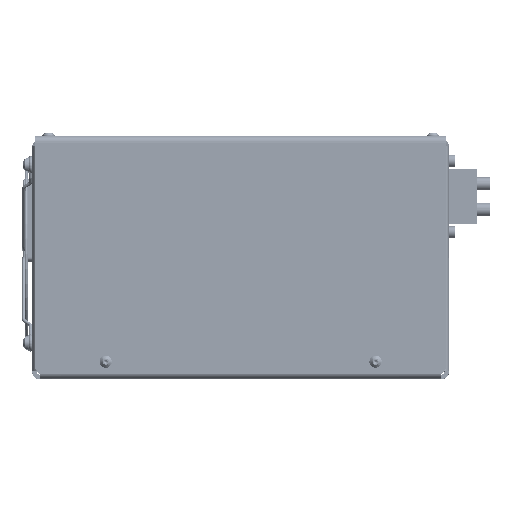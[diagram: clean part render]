
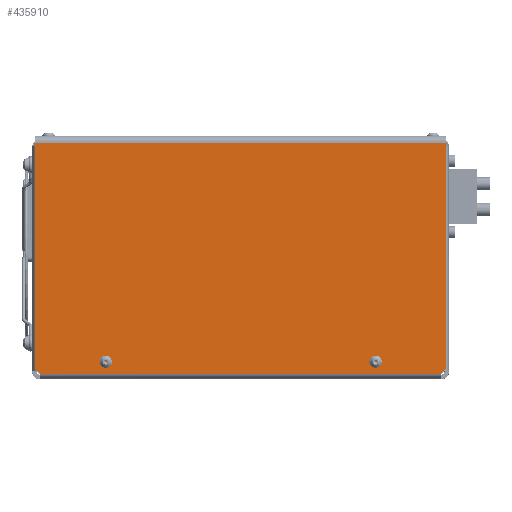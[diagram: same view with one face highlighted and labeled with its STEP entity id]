
A CAD part, top view. The second image highlights one B-rep face of the part: STEP entity #435910.
In plain terms, the highlighted planar face has unit normal (0, 0, 1) as drawn and (-1, 0, 0) by its records, which use the part's own axes.
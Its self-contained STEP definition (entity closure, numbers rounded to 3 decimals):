
#608 = ORIENTED_EDGE ( 'NONE', *, *, #650373, .T. ) ;
#2377 = VERTEX_POINT ( 'NONE', #428630 ) ;
#2914 = CARTESIAN_POINT ( 'NONE',  ( -71.75, -110., 93. ) ) ;
#14431 = DIRECTION ( 'NONE',  ( 0., -1., 0. ) ) ;
#17409 = VERTEX_POINT ( 'NONE', #585915 ) ;
#19633 = CARTESIAN_POINT ( 'NONE',  ( -71.75, -105., -64.25 ) ) ;
#22877 = AXIS2_PLACEMENT_3D ( 'NONE', #557855, #306336, #49163 ) ;
#22988 = LINE ( 'NONE', #627280, #62690 ) ;
#31115 = CARTESIAN_POINT ( 'NONE',  ( -71.75, -105., 60.75 ) ) ;
#32656 = VERTEX_POINT ( 'NONE', #402015 ) ;
#49163 = DIRECTION ( 'NONE',  ( 0., -1., 0. ) ) ;
#54930 = DIRECTION ( 'NONE',  ( 0., 1., 0. ) ) ;
#59511 = FACE_OUTER_BOUND ( 'NONE', #770082, .T. ) ;
#62690 = VECTOR ( 'NONE', #434098, 1000. ) ;
#64723 = CIRCLE ( 'NONE', #350461, 1.75 ) ;
#66536 = VERTEX_POINT ( 'NONE', #466924 ) ;
#97566 = ORIENTED_EDGE ( 'NONE', *, *, #647116, .F. ) ;
#106616 = CARTESIAN_POINT ( 'NONE',  ( -71.75, 0., -95. ) ) ;
#119086 = FACE_BOUND ( 'NONE', #544349, .T. ) ;
#127453 = DIRECTION ( 'NONE',  ( 0., 1., 0. ) ) ;
#131529 = CARTESIAN_POINT ( 'NONE',  ( -71.75, -110., 95. ) ) ;
#132091 = CIRCLE ( 'NONE', #175037, 1.75 ) ;
#138116 = CIRCLE ( 'NONE', #709453, 1.75 ) ;
#141900 = VECTOR ( 'NONE', #469283, 1000. ) ;
#149869 = DIRECTION ( 'NONE',  ( -1., 0., 0. ) ) ;
#157169 = VECTOR ( 'NONE', #461708, 1000. ) ;
#175037 = AXIS2_PLACEMENT_3D ( 'NONE', #770009, #200705, #507759 ) ;
#175112 = VERTEX_POINT ( 'NONE', #31115 ) ;
#191557 = EDGE_CURVE ( 'NONE', #767655, #17409, #132091, .T. ) ;
#192154 = LINE ( 'NONE', #2914, #477164 ) ;
#192178 = ORIENTED_EDGE ( 'NONE', *, *, #732723, .F. ) ;
#192336 = ORIENTED_EDGE ( 'NONE', *, *, #451730, .F. ) ;
#193055 = VERTEX_POINT ( 'NONE', #745208 ) ;
#195674 = DIRECTION ( 'NONE',  ( -1., 0., 0. ) ) ;
#199837 = AXIS2_PLACEMENT_3D ( 'NONE', #564227, #691277, #259903 ) ;
#200705 = DIRECTION ( 'NONE',  ( -1., 0., 0. ) ) ;
#215345 = CARTESIAN_POINT ( 'NONE',  ( -71.75, -3., 95. ) ) ;
#239283 = VECTOR ( 'NONE', #504761, 1000. ) ;
#253848 = CARTESIAN_POINT ( 'NONE',  ( -71.75, -104., -62.5 ) ) ;
#256331 = ORIENTED_EDGE ( 'NONE', *, *, #777108, .F. ) ;
#259903 = DIRECTION ( 'NONE',  ( 0., -1., 0. ) ) ;
#274969 = EDGE_CURVE ( 'NONE', #17409, #175112, #290182, .T. ) ;
#288403 = LINE ( 'NONE', #568380, #239283 ) ;
#290182 = LINE ( 'NONE', #783987, #141900 ) ;
#290435 = CIRCLE ( 'NONE', #199837, 1.75 ) ;
#292742 = DIRECTION ( 'NONE',  ( 0., 1., 0. ) ) ;
#293037 = CARTESIAN_POINT ( 'NONE',  ( -71.75, -104., -64.25 ) ) ;
#295862 = EDGE_CURVE ( 'NONE', #447245, #66536, #192154, .T. ) ;
#301792 = LINE ( 'NONE', #106616, #489925 ) ;
#306336 = DIRECTION ( 'NONE',  ( -1., 0., 0. ) ) ;
#311010 = EDGE_LOOP ( 'NONE', ( #720721, #487598, #192178, #678779, #799337 ) ) ;
#313156 = VERTEX_POINT ( 'NONE', #564706 ) ;
#317411 = DIRECTION ( 'NONE',  ( 0., -1., 0. ) ) ;
#325338 = LINE ( 'NONE', #779089, #157169 ) ;
#329525 = VERTEX_POINT ( 'NONE', #715370 ) ;
#337907 = CARTESIAN_POINT ( 'NONE',  ( -71.75, -105., 62.5 ) ) ;
#343460 = CARTESIAN_POINT ( 'NONE',  ( -71.75, -105., 62.5 ) ) ;
#350461 = AXIS2_PLACEMENT_3D ( 'NONE', #337907, #149869, #779954 ) ;
#357307 = EDGE_CURVE ( 'NONE', #32656, #767655, #631475, .T. ) ;
#381322 = EDGE_CURVE ( 'NONE', #2377, #329525, #708820, .T. ) ;
#385411 = CARTESIAN_POINT ( 'NONE',  ( -71.75, -110., -93. ) ) ;
#385700 = VERTEX_POINT ( 'NONE', #671871 ) ;
#388676 = VECTOR ( 'NONE', #504863, 1000. ) ;
#393589 = DIRECTION ( 'NONE',  ( -1., 0., 0. ) ) ;
#402015 = CARTESIAN_POINT ( 'NONE',  ( -71.75, -105., 64.25 ) ) ;
#428630 = CARTESIAN_POINT ( 'NONE',  ( -71.75, -105., -60.75 ) ) ;
#434098 = DIRECTION ( 'NONE',  ( 0., -0.707, 0.707 ) ) ;
#435910 = ADVANCED_FACE ( 'NONE', ( #712487, #119086, #59511 ), #544308, .F. ) ;
#437213 = EDGE_CURVE ( 'NONE', #738215, #313156, #290435, .T. ) ;
#442968 = DIRECTION ( 'NONE',  ( 0., 0.707, 0.707 ) ) ;
#444711 = VERTEX_POINT ( 'NONE', #385411 ) ;
#445868 = ORIENTED_EDGE ( 'NONE', *, *, #554514, .T. ) ;
#447245 = VERTEX_POINT ( 'NONE', #660089 ) ;
#451337 = VECTOR ( 'NONE', #54930, 1000. ) ;
#451730 = EDGE_CURVE ( 'NONE', #313156, #2377, #631002, .T. ) ;
#461708 = DIRECTION ( 'NONE',  ( 0., 0., -1. ) ) ;
#466924 = CARTESIAN_POINT ( 'NONE',  ( -71.75, -108., 95. ) ) ;
#469283 = DIRECTION ( 'NONE',  ( 0., -1., 0. ) ) ;
#475367 = ORIENTED_EDGE ( 'NONE', *, *, #733740, .F. ) ;
#477164 = VECTOR ( 'NONE', #442968, 1000. ) ;
#483026 = EDGE_CURVE ( 'NONE', #584300, #32656, #138116, .T. ) ;
#485605 = DIRECTION ( 'NONE',  ( 0., -1., 0. ) ) ;
#487598 = ORIENTED_EDGE ( 'NONE', *, *, #483026, .F. ) ;
#489925 = VECTOR ( 'NONE', #485605, 1000. ) ;
#504761 = DIRECTION ( 'NONE',  ( 0., -1., 0. ) ) ;
#504863 = DIRECTION ( 'NONE',  ( 0., 0., -1. ) ) ;
#507759 = DIRECTION ( 'NONE',  ( 0., -1., 0. ) ) ;
#544308 = PLANE ( 'NONE',  #791850 ) ;
#544349 = EDGE_LOOP ( 'NONE', ( #558271, #192336, #800634, #97566, #776814 ) ) ;
#554514 = EDGE_CURVE ( 'NONE', #385700, #193055, #301792, .T. ) ;
#557855 = CARTESIAN_POINT ( 'NONE',  ( -71.75, -105., -62.5 ) ) ;
#558271 = ORIENTED_EDGE ( 'NONE', *, *, #381322, .F. ) ;
#564227 = CARTESIAN_POINT ( 'NONE',  ( -71.75, -105., -62.5 ) ) ;
#564706 = CARTESIAN_POINT ( 'NONE',  ( -71.75, -106.75, -62.5 ) ) ;
#568380 = CARTESIAN_POINT ( 'NONE',  ( -71.75, -105., -64.25 ) ) ;
#584300 = VERTEX_POINT ( 'NONE', #792329 ) ;
#585915 = CARTESIAN_POINT ( 'NONE',  ( -71.75, -104., 60.75 ) ) ;
#591840 = VECTOR ( 'NONE', #127453, 1000. ) ;
#602443 = CARTESIAN_POINT ( 'NONE',  ( -71.75, 0., 95. ) ) ;
#604465 = AXIS2_PLACEMENT_3D ( 'NONE', #253848, #195674, #317411 ) ;
#606986 = EDGE_CURVE ( 'NONE', #193055, #444711, #22988, .T. ) ;
#607881 = DIRECTION ( 'NONE',  ( 1., 0., 0. ) ) ;
#610030 = LINE ( 'NONE', #638815, #817808 ) ;
#610866 = VERTEX_POINT ( 'NONE', #215345 ) ;
#627280 = CARTESIAN_POINT ( 'NONE',  ( -71.75, -108., -95. ) ) ;
#628015 = DIRECTION ( 'NONE',  ( 0., -1., 0. ) ) ;
#631002 = CIRCLE ( 'NONE', #22877, 1.75 ) ;
#631475 = LINE ( 'NONE', #699693, #591840 ) ;
#634246 = ORIENTED_EDGE ( 'NONE', *, *, #295862, .T. ) ;
#636871 = CARTESIAN_POINT ( 'NONE',  ( -71.75, -104., 64.25 ) ) ;
#638815 = CARTESIAN_POINT ( 'NONE',  ( -71.75, 0., 95. ) ) ;
#647116 = EDGE_CURVE ( 'NONE', #721123, #738215, #288403, .T. ) ;
#650373 = EDGE_CURVE ( 'NONE', #610866, #385700, #325338, .T. ) ;
#660089 = CARTESIAN_POINT ( 'NONE',  ( -71.75, -110., 93. ) ) ;
#671871 = CARTESIAN_POINT ( 'NONE',  ( -71.75, -3., -95. ) ) ;
#678779 = ORIENTED_EDGE ( 'NONE', *, *, #274969, .F. ) ;
#682536 = CARTESIAN_POINT ( 'NONE',  ( -71.75, -105., -60.75 ) ) ;
#691277 = DIRECTION ( 'NONE',  ( -1., 0., 0. ) ) ;
#699693 = CARTESIAN_POINT ( 'NONE',  ( -71.75, -105., 64.25 ) ) ;
#705118 = EDGE_CURVE ( 'NONE', #329525, #721123, #722456, .T. ) ;
#708820 = LINE ( 'NONE', #682536, #451337 ) ;
#709453 = AXIS2_PLACEMENT_3D ( 'NONE', #343460, #393589, #14431 ) ;
#712487 = FACE_BOUND ( 'NONE', #311010, .T. ) ;
#715370 = CARTESIAN_POINT ( 'NONE',  ( -71.75, -104., -60.75 ) ) ;
#720721 = ORIENTED_EDGE ( 'NONE', *, *, #357307, .F. ) ;
#721123 = VERTEX_POINT ( 'NONE', #293037 ) ;
#721530 = ORIENTED_EDGE ( 'NONE', *, *, #606986, .T. ) ;
#722456 = CIRCLE ( 'NONE', #604465, 1.75 ) ;
#732723 = EDGE_CURVE ( 'NONE', #175112, #584300, #64723, .T. ) ;
#733740 = EDGE_CURVE ( 'NONE', #447245, #444711, #804021, .T. ) ;
#738215 = VERTEX_POINT ( 'NONE', #19633 ) ;
#745208 = CARTESIAN_POINT ( 'NONE',  ( -71.75, -108., -95. ) ) ;
#767655 = VERTEX_POINT ( 'NONE', #636871 ) ;
#770009 = CARTESIAN_POINT ( 'NONE',  ( -71.75, -104., 62.5 ) ) ;
#770082 = EDGE_LOOP ( 'NONE', ( #445868, #721530, #475367, #634246, #256331, #608 ) ) ;
#776814 = ORIENTED_EDGE ( 'NONE', *, *, #705118, .F. ) ;
#777108 = EDGE_CURVE ( 'NONE', #610866, #66536, #610030, .T. ) ;
#779089 = CARTESIAN_POINT ( 'NONE',  ( -71.75, -3., 95. ) ) ;
#779954 = DIRECTION ( 'NONE',  ( 0., -1., 0. ) ) ;
#783987 = CARTESIAN_POINT ( 'NONE',  ( -71.75, -105., 60.75 ) ) ;
#791850 = AXIS2_PLACEMENT_3D ( 'NONE', #602443, #607881, #292742 ) ;
#792329 = CARTESIAN_POINT ( 'NONE',  ( -71.75, -106.75, 62.5 ) ) ;
#799337 = ORIENTED_EDGE ( 'NONE', *, *, #191557, .F. ) ;
#800634 = ORIENTED_EDGE ( 'NONE', *, *, #437213, .F. ) ;
#804021 = LINE ( 'NONE', #131529, #388676 ) ;
#817808 = VECTOR ( 'NONE', #628015, 1000. ) ;
